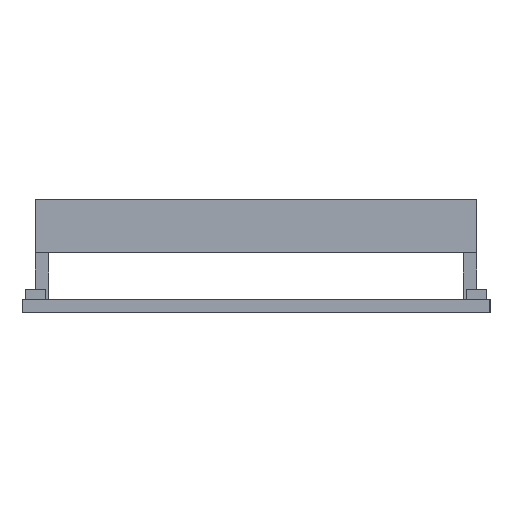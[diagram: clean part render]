
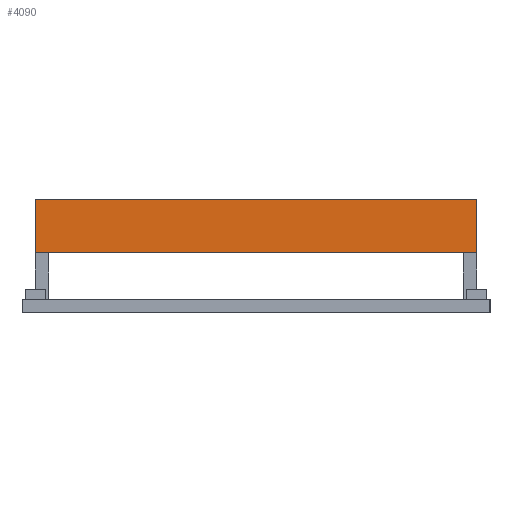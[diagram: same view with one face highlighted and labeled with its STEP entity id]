
A CAD part, left-side view. The second image highlights one B-rep face of the part: STEP entity #4090.
In plain terms, the highlighted planar face has unit normal (-1, 0, 0).
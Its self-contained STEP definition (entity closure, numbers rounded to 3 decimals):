
#1442 = PLANE('',#1443);
#1443 = AXIS2_PLACEMENT_3D('',#1444,#1445,#1446);
#1444 = CARTESIAN_POINT('',(-55.,-43.,-15.5));
#1445 = DIRECTION('',(0.,1.,0.));
#1446 = DIRECTION('',(0.,0.,1.));
#1536 = PLANE('',#1537);
#1537 = AXIS2_PLACEMENT_3D('',#1538,#1539,#1540);
#1538 = CARTESIAN_POINT('',(-69.5,-43.,-7.));
#1539 = DIRECTION('',(0.,0.,1.));
#1540 = DIRECTION('',(1.,0.,0.));
#2442 = PLANE('',#2443);
#2443 = AXIS2_PLACEMENT_3D('',#2444,#2445,#2446);
#2444 = CARTESIAN_POINT('',(-55.,23.,-15.5));
#2445 = DIRECTION('',(0.,1.,0.));
#2446 = DIRECTION('',(0.,0.,1.));
#3164 = VERTEX_POINT('',#3165);
#3165 = CARTESIAN_POINT('',(-69.5,-43.,-7.));
#3186 = EDGE_CURVE('',#3164,#3187,#3189,.T.);
#3187 = VERTEX_POINT('',#3188);
#3188 = CARTESIAN_POINT('',(-69.5,-43.,1.));
#3189 = SURFACE_CURVE('',#3190,(#3194,#3201),.PCURVE_S1.);
#3190 = LINE('',#3191,#3192);
#3191 = CARTESIAN_POINT('',(-69.5,-43.,-7.));
#3192 = VECTOR('',#3193,1.);
#3193 = DIRECTION('',(0.,0.,1.));
#3194 = PCURVE('',#1442,#3195);
#3195 = DEFINITIONAL_REPRESENTATION('',(#3196),#3200);
#3196 = LINE('',#3197,#3198);
#3197 = CARTESIAN_POINT('',(8.5,-14.5));
#3198 = VECTOR('',#3199,1.);
#3199 = DIRECTION('',(1.,0.));
#3200 = ( GEOMETRIC_REPRESENTATION_CONTEXT(2) 
PARAMETRIC_REPRESENTATION_CONTEXT() REPRESENTATION_CONTEXT('2D SPACE',''
  ) );
#3201 = PCURVE('',#3202,#3207);
#3202 = PLANE('',#3203);
#3203 = AXIS2_PLACEMENT_3D('',#3204,#3205,#3206);
#3204 = CARTESIAN_POINT('',(-69.5,-43.,-7.));
#3205 = DIRECTION('',(1.,0.,0.));
#3206 = DIRECTION('',(0.,0.,1.));
#3207 = DEFINITIONAL_REPRESENTATION('',(#3208),#3212);
#3208 = LINE('',#3209,#3210);
#3209 = CARTESIAN_POINT('',(0.,0.));
#3210 = VECTOR('',#3211,1.);
#3211 = DIRECTION('',(1.,0.));
#3212 = ( GEOMETRIC_REPRESENTATION_CONTEXT(2) 
PARAMETRIC_REPRESENTATION_CONTEXT() REPRESENTATION_CONTEXT('2D SPACE',''
  ) );
#3230 = PLANE('',#3231);
#3231 = AXIS2_PLACEMENT_3D('',#3232,#3233,#3234);
#3232 = CARTESIAN_POINT('',(-69.5,-43.,1.));
#3233 = DIRECTION('',(0.,0.,1.));
#3234 = DIRECTION('',(1.,0.,0.));
#3295 = VERTEX_POINT('',#3296);
#3296 = CARTESIAN_POINT('',(-69.5,23.,-7.));
#3317 = EDGE_CURVE('',#3164,#3295,#3318,.T.);
#3318 = SURFACE_CURVE('',#3319,(#3323,#3330),.PCURVE_S1.);
#3319 = LINE('',#3320,#3321);
#3320 = CARTESIAN_POINT('',(-69.5,-43.,-7.));
#3321 = VECTOR('',#3322,1.);
#3322 = DIRECTION('',(0.,1.,0.));
#3323 = PCURVE('',#1536,#3324);
#3324 = DEFINITIONAL_REPRESENTATION('',(#3325),#3329);
#3325 = LINE('',#3326,#3327);
#3326 = CARTESIAN_POINT('',(0.,0.));
#3327 = VECTOR('',#3328,1.);
#3328 = DIRECTION('',(0.,1.));
#3329 = ( GEOMETRIC_REPRESENTATION_CONTEXT(2) 
PARAMETRIC_REPRESENTATION_CONTEXT() REPRESENTATION_CONTEXT('2D SPACE',''
  ) );
#3330 = PCURVE('',#3202,#3331);
#3331 = DEFINITIONAL_REPRESENTATION('',(#3332),#3336);
#3332 = LINE('',#3333,#3334);
#3333 = CARTESIAN_POINT('',(0.,0.));
#3334 = VECTOR('',#3335,1.);
#3335 = DIRECTION('',(0.,-1.));
#3336 = ( GEOMETRIC_REPRESENTATION_CONTEXT(2) 
PARAMETRIC_REPRESENTATION_CONTEXT() REPRESENTATION_CONTEXT('2D SPACE',''
  ) );
#3887 = EDGE_CURVE('',#3295,#3888,#3890,.T.);
#3888 = VERTEX_POINT('',#3889);
#3889 = CARTESIAN_POINT('',(-69.5,23.,1.));
#3890 = SURFACE_CURVE('',#3891,(#3895,#3902),.PCURVE_S1.);
#3891 = LINE('',#3892,#3893);
#3892 = CARTESIAN_POINT('',(-69.5,23.,-7.));
#3893 = VECTOR('',#3894,1.);
#3894 = DIRECTION('',(0.,0.,1.));
#3895 = PCURVE('',#2442,#3896);
#3896 = DEFINITIONAL_REPRESENTATION('',(#3897),#3901);
#3897 = LINE('',#3898,#3899);
#3898 = CARTESIAN_POINT('',(8.5,-14.5));
#3899 = VECTOR('',#3900,1.);
#3900 = DIRECTION('',(1.,0.));
#3901 = ( GEOMETRIC_REPRESENTATION_CONTEXT(2) 
PARAMETRIC_REPRESENTATION_CONTEXT() REPRESENTATION_CONTEXT('2D SPACE',''
  ) );
#3902 = PCURVE('',#3202,#3903);
#3903 = DEFINITIONAL_REPRESENTATION('',(#3904),#3908);
#3904 = LINE('',#3905,#3906);
#3905 = CARTESIAN_POINT('',(0.,-66.));
#3906 = VECTOR('',#3907,1.);
#3907 = DIRECTION('',(1.,0.));
#3908 = ( GEOMETRIC_REPRESENTATION_CONTEXT(2) 
PARAMETRIC_REPRESENTATION_CONTEXT() REPRESENTATION_CONTEXT('2D SPACE',''
  ) );
#4090 = ADVANCED_FACE('',(#4091),#3202,.F.);
#4091 = FACE_BOUND('',#4092,.F.);
#4092 = EDGE_LOOP('',(#4093,#4094,#4095,#4096));
#4093 = ORIENTED_EDGE('',*,*,#3186,.F.);
#4094 = ORIENTED_EDGE('',*,*,#3317,.T.);
#4095 = ORIENTED_EDGE('',*,*,#3887,.T.);
#4096 = ORIENTED_EDGE('',*,*,#4097,.F.);
#4097 = EDGE_CURVE('',#3187,#3888,#4098,.T.);
#4098 = SURFACE_CURVE('',#4099,(#4103,#4110),.PCURVE_S1.);
#4099 = LINE('',#4100,#4101);
#4100 = CARTESIAN_POINT('',(-69.5,-43.,1.));
#4101 = VECTOR('',#4102,1.);
#4102 = DIRECTION('',(0.,1.,0.));
#4103 = PCURVE('',#3202,#4104);
#4104 = DEFINITIONAL_REPRESENTATION('',(#4105),#4109);
#4105 = LINE('',#4106,#4107);
#4106 = CARTESIAN_POINT('',(8.,0.));
#4107 = VECTOR('',#4108,1.);
#4108 = DIRECTION('',(0.,-1.));
#4109 = ( GEOMETRIC_REPRESENTATION_CONTEXT(2) 
PARAMETRIC_REPRESENTATION_CONTEXT() REPRESENTATION_CONTEXT('2D SPACE',''
  ) );
#4110 = PCURVE('',#3230,#4111);
#4111 = DEFINITIONAL_REPRESENTATION('',(#4112),#4116);
#4112 = LINE('',#4113,#4114);
#4113 = CARTESIAN_POINT('',(0.,0.));
#4114 = VECTOR('',#4115,1.);
#4115 = DIRECTION('',(0.,1.));
#4116 = ( GEOMETRIC_REPRESENTATION_CONTEXT(2) 
PARAMETRIC_REPRESENTATION_CONTEXT() REPRESENTATION_CONTEXT('2D SPACE',''
  ) );
